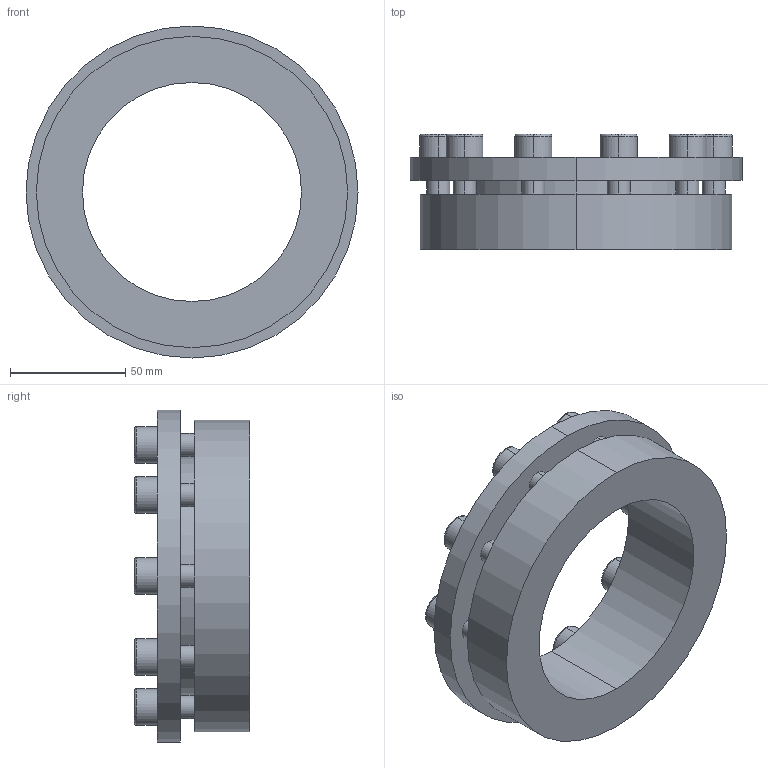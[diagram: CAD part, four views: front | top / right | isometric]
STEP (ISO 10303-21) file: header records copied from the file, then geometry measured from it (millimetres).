
FILE_DESCRIPTION (( 'STEP AP203' ), '1' );
FILE_NAME ('PL-H6 95-135.STEP', '2021-10-23T01:38:24', ( '' ), ( '' ), 'SwSTEP 2.0', 'SolidWorks 2018', '' );
FILE_SCHEMA (( 'CONFIG_CONTROL_DESIGN' ));
Length unit declared in the file: millimetre
Products named in the file (1): PL-H6 95-135
Bounding box: 144 x 50 x 144 mm (x, y, z)
Volume: 294800.8 mm3; surface area: 65447.1 mm2
Topology: 1 solids, 1 shells, 152 faces, 364 edges, 236 vertices
Faces by surface type: plane 84, cylinder 48, torus 20
Entity records: 4545 total; most frequent: DIRECTION 806, CARTESIAN_POINT 753, ORIENTED_EDGE 728, EDGE_CURVE 364, AXIS2_PLACEMENT_3D 289, VERTEX_POINT 236, VECTOR 228, LINE 228
